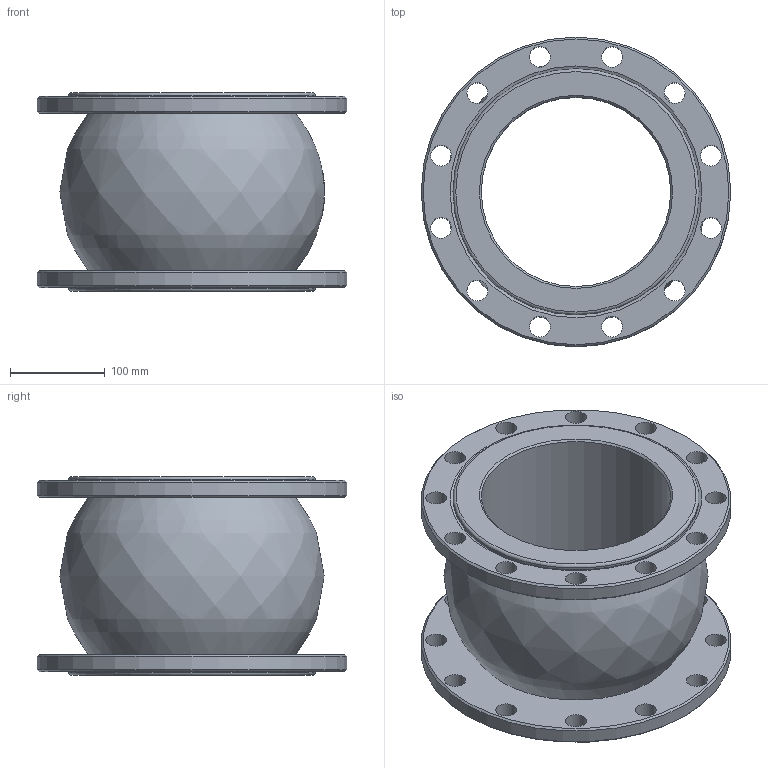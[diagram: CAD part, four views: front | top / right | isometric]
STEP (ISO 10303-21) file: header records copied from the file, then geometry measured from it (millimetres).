
FILE_DESCRIPTION(/* description */ ('D140-02179','CAx-IF Rec.Pracs.---Representation and Presentation of Product Manufacturing Information (PMI)---4.0---2014-10-13'),/* implementation_level */ '2;1');
FILE_NAME(/* name */ '',/* time_stamp */ '2026-04-30T11:24:55+03:00',/* author */ ('DN.RU'),/* organization */ ('DN.RU'),/* preprocessor_version */ 'ST-DEVELOPER v20',/* originating_system */ 'Autodesk Inventor 2025',/* authorisation */ '');
FILE_SCHEMA (('AP242_MANAGED_MODEL_BASED_3D_ENGINEERING_MIM_LF { 1 0 10303 442 1 1 4 }'));
Length unit declared in the file: millimetre
Products named in the file (1): CR-E25-F
Bounding box: 327 x 327 x 210 mm (x, y, z)
Volume: 5529284 mm3; surface area: 526309.7 mm2
Topology: 1 solids, 1 shells, 115 faces, 312 edges, 206 vertices
Faces by surface type: plane 43, bspline 34, cylinder 29, cone 7, torus 2
Full cylindrical faces by diameter (mm): 22 x24, 200 x1, 260 x2, 327 x2
Entity records: 4996 total; most frequent: CARTESIAN_POINT 1683, DIRECTION 640, ORIENTED_EDGE 624, EDGE_CURVE 312, AXIS2_PLACEMENT_3D 272, VERTEX_POINT 206, CIRCLE 177, EDGE_LOOP 172
